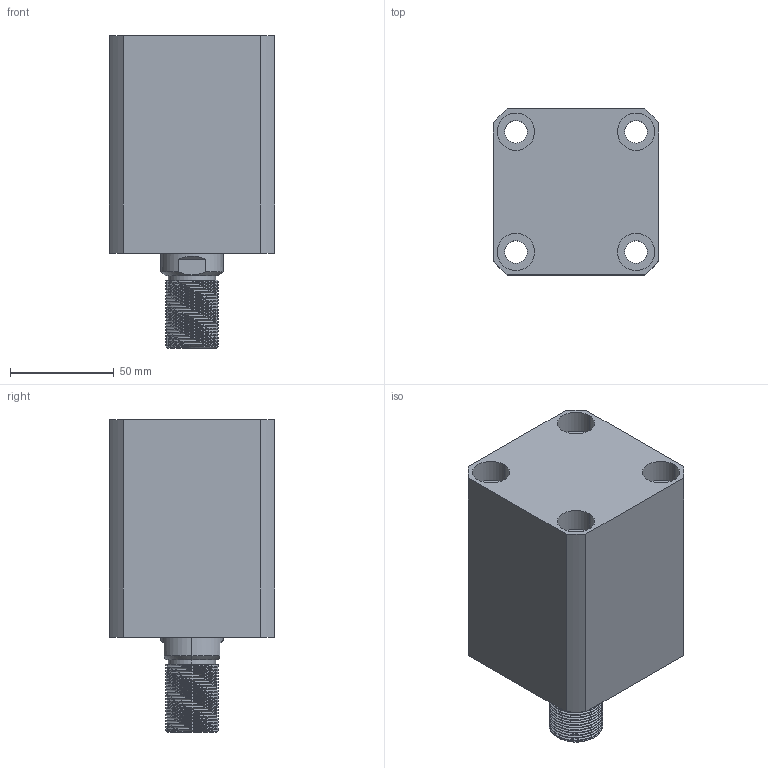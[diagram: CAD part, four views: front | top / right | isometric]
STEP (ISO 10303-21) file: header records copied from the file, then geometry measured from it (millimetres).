
FILE_DESCRIPTION (( 'STEP AP203' ), '1' );
FILE_NAME ('CHTB-SD50-45W.STEP', '2018-05-18T12:39:35', ( '' ), ( '' ), 'SwSTEP 2.0', 'SolidWorks 2015', '' );
FILE_SCHEMA (( 'CONFIG_CONTROL_DESIGN' ));
Length unit declared in the file: millimetre
Products named in the file (4): CHTB-SD50-45W; 掛极SD50-45W; CHTM-SD50QG; 活塞杆SD50-45W
Assembly tree (3 placements, depth 2):
  CHTB-SD50-45W
    掛极SD50-45W
    活塞杆SD50-45W
    CHTM-SD50QG
Bounding box: 80 x 80 x 151 mm (x, y, z)
Volume: 570295 mm3; surface area: 112899.1 mm2
Topology: 3 solids, 3 shells, 236 faces, 627 edges, 419 vertices
Faces by surface type: cylinder 144, plane 41, cone 19, bspline 16, torus 16
Entity records: 14613 total; most frequent: CARTESIAN_POINT 8784, ORIENTED_EDGE 1246, DIRECTION 1029, EDGE_CURVE 623, AXIS2_PLACEMENT_3D 422, VERTEX_POINT 419, EDGE_LOOP 276, ADVANCED_FACE 236
